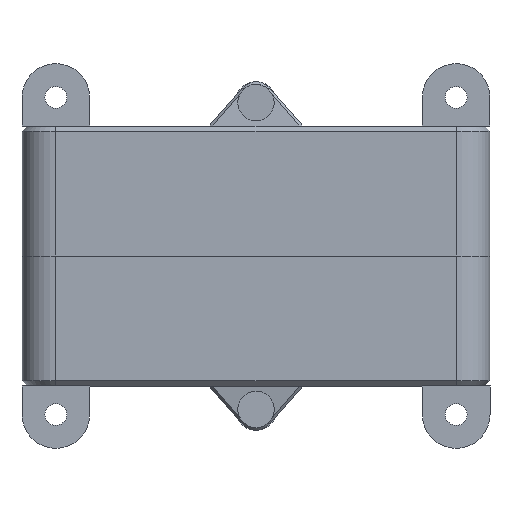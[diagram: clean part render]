
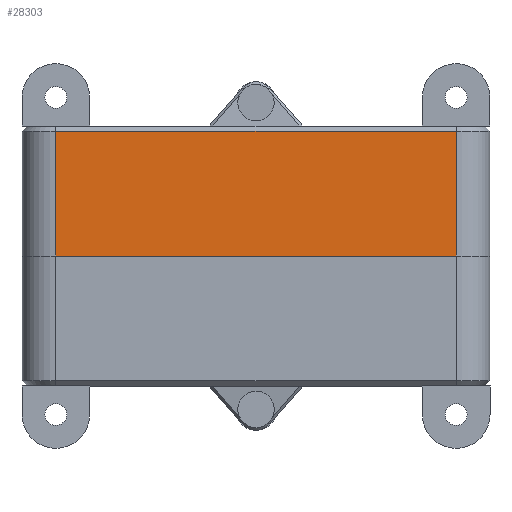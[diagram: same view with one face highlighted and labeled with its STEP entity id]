
A CAD part, front view. The second image highlights one B-rep face of the part: STEP entity #28303.
In plain terms, the highlighted planar face has unit normal (0, -1, 0).
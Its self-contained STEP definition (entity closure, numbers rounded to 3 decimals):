
#1562=PLANE('',#30094);
#2749=FACE_OUTER_BOUND('',#4355,.T.);
#4355=EDGE_LOOP('',(#22551,#22552,#22553,#22554));
#5483=LINE('',#37623,#8490);
#5525=LINE('',#37734,#8532);
#5653=LINE('',#38231,#8660);
#5654=LINE('',#38233,#8661);
#8490=VECTOR('',#31298,10.);
#8532=VECTOR('',#31382,10.);
#8660=VECTOR('',#31602,10.);
#8661=VECTOR('',#31605,10.);
#12308=VERTEX_POINT('',#37620);
#12309=VERTEX_POINT('',#37622);
#12355=VERTEX_POINT('',#37726);
#12357=VERTEX_POINT('',#37732);
#15090=EDGE_CURVE('',#12308,#12309,#5483,.T.);
#15146=EDGE_CURVE('',#12357,#12355,#5525,.T.);
#15313=EDGE_CURVE('',#12309,#12357,#5653,.T.);
#15314=EDGE_CURVE('',#12355,#12308,#5654,.T.);
#22551=ORIENTED_EDGE('',*,*,#15146,.F.);
#22552=ORIENTED_EDGE('',*,*,#15313,.F.);
#22553=ORIENTED_EDGE('',*,*,#15090,.F.);
#22554=ORIENTED_EDGE('',*,*,#15314,.F.);
#28303=ADVANCED_FACE('',(#2749),#1562,.T.);
#30094=AXIS2_PLACEMENT_3D('',#42910,#33490,#33491);
#31298=DIRECTION('',(1.,0.,0.));
#31382=DIRECTION('',(-1.,0.,0.));
#31602=DIRECTION('',(0.,0.,-1.));
#31605=DIRECTION('',(0.,0.,1.));
#33490=DIRECTION('center_axis',(0.,-1.,0.));
#33491=DIRECTION('ref_axis',(1.,0.,0.));
#37620=CARTESIAN_POINT('',(-38.5,0.,25.));
#37622=CARTESIAN_POINT('',(38.5,0.,25.));
#37623=CARTESIAN_POINT('',(-45.,0.,25.));
#37726=CARTESIAN_POINT('',(-38.5,0.,1.));
#37732=CARTESIAN_POINT('',(38.5,0.,1.));
#37734=CARTESIAN_POINT('',(-22.5,0.,1.));
#38231=CARTESIAN_POINT('',(38.5,0.,0.));
#38233=CARTESIAN_POINT('',(-38.5,0.,0.));
#42910=CARTESIAN_POINT('Origin',(-45.,0.,
0.));
